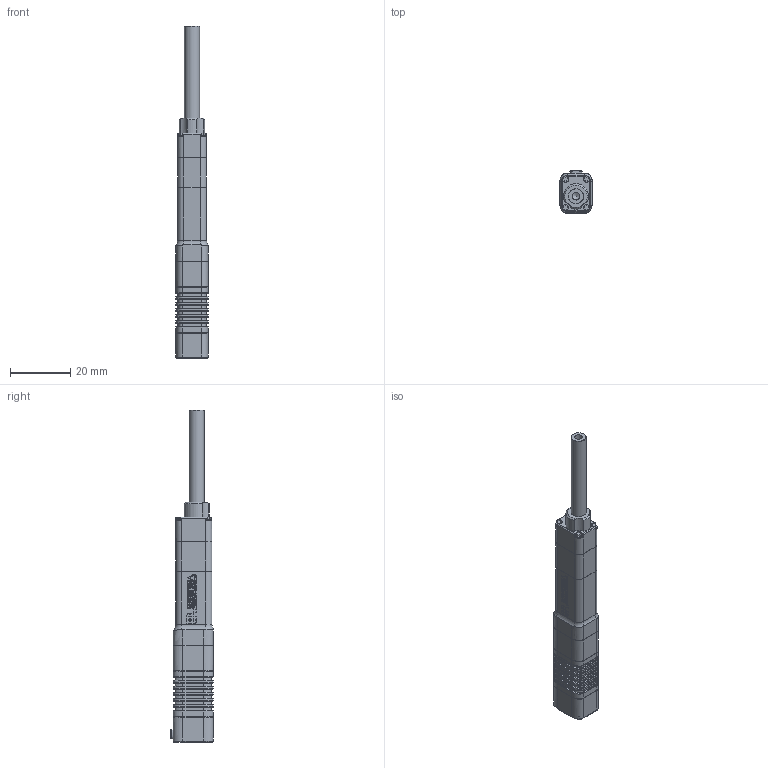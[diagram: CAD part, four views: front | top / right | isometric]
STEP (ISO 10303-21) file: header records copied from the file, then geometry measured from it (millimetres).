
FILE_DESCRIPTION (( 'STEP AP203' ), '1' );
FILE_NAME ('LA30-0x1D-1201.STEP', '2023-12-01T08:41:33', ( '' ), ( '' ), '' );
FILE_SCHEMA (( 'CONFIG_CONTROL_DESIGN' ));
Products named in the file (3): LA30-0x1D-1201; 錨璃22^LA30-0x1D-俋楷; AS820130-015芢裝-俋楷
Assembly tree (2 placements, depth 2):
  LA30-0x1D-1201
    AS820130-015芢裝-俋楷
    錨璃22^LA30-0x1D-俋楷
Bounding box: 10.8 x 14 x 110 mm (x, y, z)
Volume: 9339.4 mm3; surface area: 5030.4 mm2
Topology: 2 solids, 2 shells, 1532 faces, 3973 edges, 2567 vertices
Faces by surface type: plane 843, bspline 556, cylinder 97, cone 32, torus 4
Full cylindrical faces by diameter (mm): 2.17 x5, 2.2 x4, 2.4 x1, 2.5 x1, 4 x1, 5 x2
Entity records: 59323 total; most frequent: CARTESIAN_POINT 25485, ORIENTED_EDGE 7890, DIRECTION 5032, EDGE_CURVE 3945, LINE 2592, VECTOR 2592, VERTEX_POINT 2557, EDGE_LOOP 1672
